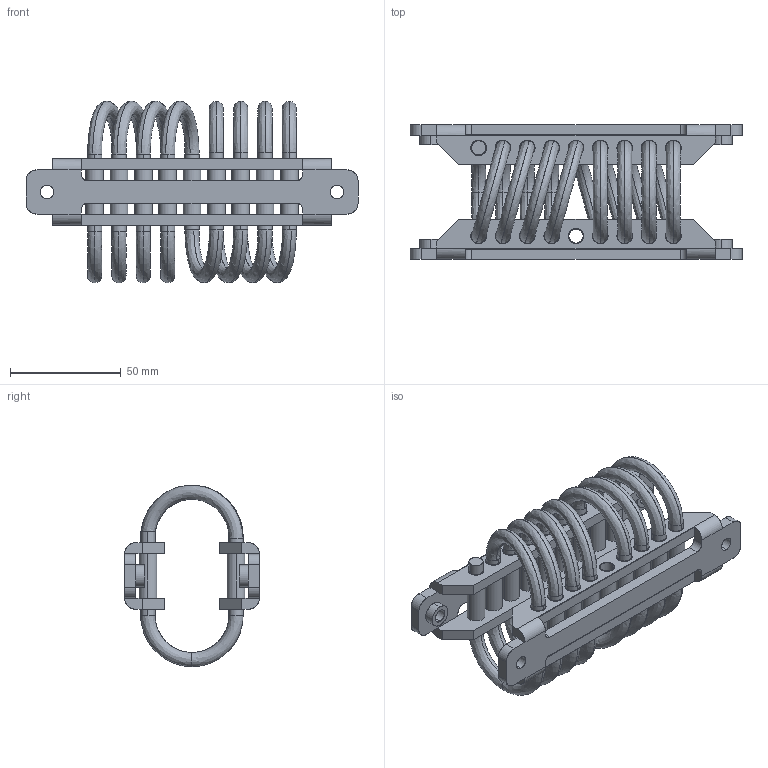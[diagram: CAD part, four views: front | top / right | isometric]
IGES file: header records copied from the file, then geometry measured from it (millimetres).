
Start section: SolidWorks IGES file using analytic representation for surfaces
Bounding box: 150 x 60.8 x 81.98 mm (x, y, z)
Surface area: 71919.2 mm2 (no closed solid volume)
Topology: 0 solids, 0 shells, 284 faces, 6740 edges, 6740 vertices
Faces by surface type: revolution 142, bspline 142
